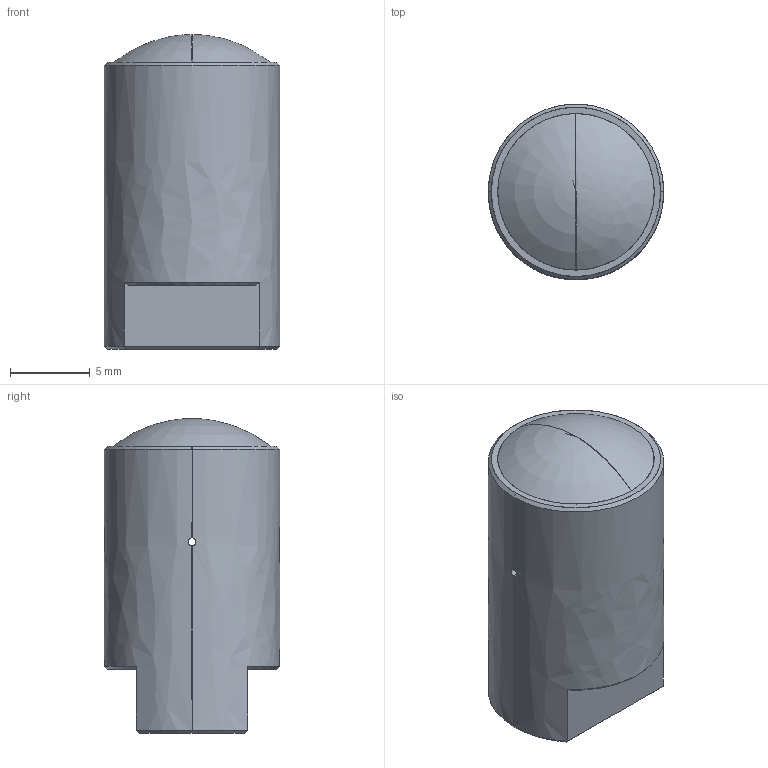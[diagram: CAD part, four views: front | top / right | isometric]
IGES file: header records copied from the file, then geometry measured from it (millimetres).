
Start section: SolidWorks IGES file using analytic representation for surfaces
Global section: file name: E:\00. WORK\堡拳捞滚 OMD\02. 权其捞瘤 档搁\3D\34.FTL-M4V3\FTL-M4V3.IGS; native system: SolidWorks 2018; preprocessor: SolidWorks 2018; author: 10116024; date: 201031.155854; units: millimetre
Bounding box: 11 x 11 x 19.72 mm (x, y, z)
Surface area: 877.4 mm2 (no closed solid volume)
Topology: 0 solids, 0 shells, 39 faces, 596 edges, 595 vertices
Faces by surface type: revolution 26, bspline 13
